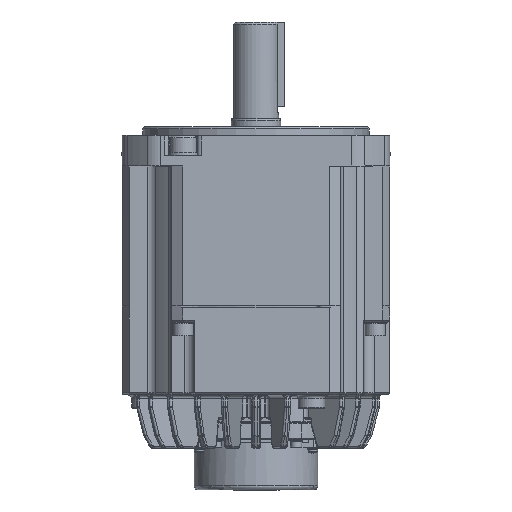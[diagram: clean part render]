
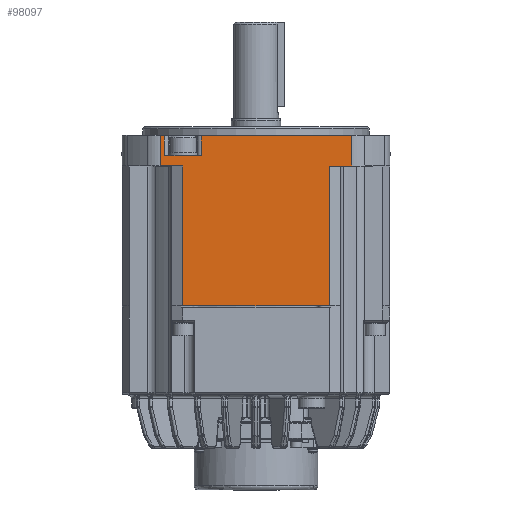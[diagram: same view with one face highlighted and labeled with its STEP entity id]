
A CAD part, front view. The second image highlights one B-rep face of the part: STEP entity #98097.
In plain terms, the highlighted planar face has unit normal (0, -1, 0) as drawn and (0, 0, -1) by its records, which use the part's own axes.
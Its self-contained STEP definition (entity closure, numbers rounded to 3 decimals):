
#1024 = ORIENTED_EDGE ( 'NONE', *, *, #134627, .T. ) ;
#14689 = LINE ( 'NONE', #80965, #72899 ) ;
#14977 = CARTESIAN_POINT ( 'NONE',  ( 258.814, -220.201, -130. ) ) ;
#15325 = EDGE_CURVE ( 'NONE', #92375, #121670, #106745, .T. ) ;
#17433 = CARTESIAN_POINT ( 'NONE',  ( 178.813, -234.901, -130. ) ) ;
#19549 = CARTESIAN_POINT ( 'NONE',  ( 178.813, -152.201, -130. ) ) ;
#19627 = DIRECTION ( 'NONE',  ( 0., 0., -1. ) ) ;
#20315 = LINE ( 'NONE', #36916, #82496 ) ;
#20347 = LINE ( 'NONE', #37902, #86418 ) ;
#20437 = VECTOR ( 'NONE', #93904, 1000. ) ;
#21523 = EDGE_CURVE ( 'NONE', #134678, #32033, #70974, .T. ) ;
#21641 = EDGE_LOOP ( 'NONE', ( #29551, #125377, #41118, #69376, #61504, #69988, #1024, #78203, #46529, #105710, #62151, #86056, #160636, #68199, #34202 ) ) ;
#24344 = LINE ( 'NONE', #19549, #20437 ) ;
#26069 = VERTEX_POINT ( 'NONE', #116793 ) ;
#26090 = LINE ( 'NONE', #139846, #59084 ) ;
#28658 = LINE ( 'NONE', #135819, #57790 ) ;
#28662 = CARTESIAN_POINT ( 'NONE',  ( 258.814, -152.201, -130. ) ) ;
#29551 = ORIENTED_EDGE ( 'NONE', *, *, #43860, .T. ) ;
#30313 = CARTESIAN_POINT ( 'NONE',  ( 189.602, -225.201, -130. ) ) ;
#32033 = VERTEX_POINT ( 'NONE', #37380 ) ;
#32071 = EDGE_CURVE ( 'NONE', #106202, #89836, #20347, .T. ) ;
#34202 = ORIENTED_EDGE ( 'NONE', *, *, #59740, .T. ) ;
#35754 = EDGE_CURVE ( 'NONE', #89836, #52300, #107121, .T. ) ;
#36916 = CARTESIAN_POINT ( 'NONE',  ( 258.814, -225.201, -130. ) ) ;
#37380 = CARTESIAN_POINT ( 'NONE',  ( 176.848, -220.201, -130. ) ) ;
#37902 = CARTESIAN_POINT ( 'NONE',  ( 258.814, -152.201, -130. ) ) ;
#38293 = VERTEX_POINT ( 'NONE', #160955 ) ;
#38611 = VERTEX_POINT ( 'NONE', #100628 ) ;
#40646 = CARTESIAN_POINT ( 'NONE',  ( 258.814, -152.201, -130. ) ) ;
#40690 = CARTESIAN_POINT ( 'NONE',  ( 187.813, -220.201, -130. ) ) ;
#41118 = ORIENTED_EDGE ( 'NONE', *, *, #21523, .T. ) ;
#41162 = DIRECTION ( 'NONE',  ( 1., 0., 0. ) ) ;
#42194 = EDGE_CURVE ( 'NONE', #93719, #49113, #14689, .T. ) ;
#43860 = EDGE_CURVE ( 'NONE', #38611, #79140, #24344, .T. ) ;
#44570 = DIRECTION ( 'NONE',  ( -1., 0., 0. ) ) ;
#46529 = ORIENTED_EDGE ( 'NONE', *, *, #35754, .T. ) ;
#47323 = VECTOR ( 'NONE', #41162, 1000. ) ;
#49113 = VERTEX_POINT ( 'NONE', #85333 ) ;
#52300 = VERTEX_POINT ( 'NONE', #132951 ) ;
#52662 = CARTESIAN_POINT ( 'NONE',  ( 196.813, -225.201, -130. ) ) ;
#53589 = VECTOR ( 'NONE', #153277, 1000. ) ;
#54143 = CARTESIAN_POINT ( 'NONE',  ( 176.848, -234.901, -130. ) ) ;
#56502 = CARTESIAN_POINT ( 'NONE',  ( 258.814, -152.201, -130. ) ) ;
#57790 = VECTOR ( 'NONE', #85945, 1000. ) ;
#59084 = VECTOR ( 'NONE', #65492, 1000. ) ;
#59740 = EDGE_CURVE ( 'NONE', #149703, #38611, #20315, .T. ) ;
#61504 = ORIENTED_EDGE ( 'NONE', *, *, #42194, .T. ) ;
#62151 = ORIENTED_EDGE ( 'NONE', *, *, #82959, .T. ) ;
#62468 = LINE ( 'NONE', #134446, #128447 ) ;
#65492 = DIRECTION ( 'NONE',  ( 0., -1., 0. ) ) ;
#68199 = ORIENTED_EDGE ( 'NONE', *, *, #125047, .T. ) ;
#68475 = DIRECTION ( 'NONE',  ( 1., 0., 0. ) ) ;
#69014 = PLANE ( 'NONE',  #76050 ) ;
#69376 = ORIENTED_EDGE ( 'NONE', *, *, #140608, .T. ) ;
#69988 = ORIENTED_EDGE ( 'NONE', *, *, #126989, .T. ) ;
#70974 = LINE ( 'NONE', #75964, #100140 ) ;
#72899 = VECTOR ( 'NONE', #93433, 1000. ) ;
#73429 = DIRECTION ( 'NONE',  ( -1., 0., 0. ) ) ;
#75964 = CARTESIAN_POINT ( 'NONE',  ( 176.848, -152.201, -130. ) ) ;
#76050 = AXIS2_PLACEMENT_3D ( 'NONE', #56502, #19627, #106464 ) ;
#77652 = VECTOR ( 'NONE', #73429, 1000. ) ;
#78203 = ORIENTED_EDGE ( 'NONE', *, *, #32071, .T. ) ;
#79140 = VERTEX_POINT ( 'NONE', #17433 ) ;
#80965 = CARTESIAN_POINT ( 'NONE',  ( 187.813, -152.201, -130. ) ) ;
#82496 = VECTOR ( 'NONE', #111219, 1000. ) ;
#82959 = EDGE_CURVE ( 'NONE', #38293, #112677, #89051, .T. ) ;
#85333 = CARTESIAN_POINT ( 'NONE',  ( 187.813, -152.201, -130. ) ) ;
#85390 = VECTOR ( 'NONE', #68475, 1000. ) ;
#85945 = DIRECTION ( 'NONE',  ( -1., 0., 0. ) ) ;
#86056 = ORIENTED_EDGE ( 'NONE', *, *, #88253, .T. ) ;
#86418 = VECTOR ( 'NONE', #149646, 1000. ) ;
#88253 = EDGE_CURVE ( 'NONE', #112677, #92375, #119177, .T. ) ;
#89051 = LINE ( 'NONE', #131351, #121984 ) ;
#89312 = DIRECTION ( 'NONE',  ( 1., 0., 0. ) ) ;
#89836 = VERTEX_POINT ( 'NONE', #148826 ) ;
#91098 = FACE_OUTER_BOUND ( 'NONE', #21641, .T. ) ;
#92375 = VERTEX_POINT ( 'NONE', #52662 ) ;
#93433 = DIRECTION ( 'NONE',  ( 0., 1., 0. ) ) ;
#93719 = VERTEX_POINT ( 'NONE', #40690 ) ;
#93904 = DIRECTION ( 'NONE',  ( 0., -1., 0. ) ) ;
#98097 = ADVANCED_FACE ( 'NONE', ( #91098 ), #69014, .T. ) ;
#100140 = VECTOR ( 'NONE', #150239, 1000. ) ;
#100628 = CARTESIAN_POINT ( 'NONE',  ( 178.813, -225.201, -130. ) ) ;
#105710 = ORIENTED_EDGE ( 'NONE', *, *, #157001, .T. ) ;
#106202 = VERTEX_POINT ( 'NONE', #40646 ) ;
#106464 = DIRECTION ( 'NONE',  ( 0., 1., 0. ) ) ;
#106745 = LINE ( 'NONE', #160185, #77652 ) ;
#107121 = LINE ( 'NONE', #14977, #136200 ) ;
#111219 = DIRECTION ( 'NONE',  ( -1., 0., 0. ) ) ;
#112677 = VERTEX_POINT ( 'NONE', #150524 ) ;
#114418 = LINE ( 'NONE', #142812, #85390 ) ;
#116793 = CARTESIAN_POINT ( 'NONE',  ( 223.313, -152.201, -130. ) ) ;
#119177 = LINE ( 'NONE', #133857, #156114 ) ;
#119729 = DIRECTION ( 'NONE',  ( 0., 1., 0. ) ) ;
#120308 = CARTESIAN_POINT ( 'NONE',  ( 186.025, -225.201, -130. ) ) ;
#120335 = EDGE_CURVE ( 'NONE', #79140, #134678, #62468, .T. ) ;
#121670 = VERTEX_POINT ( 'NONE', #30313 ) ;
#121984 = VECTOR ( 'NONE', #44570, 1000. ) ;
#123001 = DIRECTION ( 'NONE',  ( -1., 0., 0. ) ) ;
#123467 = LINE ( 'NONE', #140813, #53589 ) ;
#125047 = EDGE_CURVE ( 'NONE', #121670, #149703, #28658, .T. ) ;
#125377 = ORIENTED_EDGE ( 'NONE', *, *, #120335, .T. ) ;
#126989 = EDGE_CURVE ( 'NONE', #49113, #26069, #123467, .T. ) ;
#128447 = VECTOR ( 'NONE', #123001, 1000. ) ;
#131351 = CARTESIAN_POINT ( 'NONE',  ( 258.814, -234.901, -130. ) ) ;
#132951 = CARTESIAN_POINT ( 'NONE',  ( 269.778, -220.201, -130. ) ) ;
#133857 = CARTESIAN_POINT ( 'NONE',  ( 196.813, -152.201, -130. ) ) ;
#134446 = CARTESIAN_POINT ( 'NONE',  ( 258.814, -234.901, -130. ) ) ;
#134627 = EDGE_CURVE ( 'NONE', #26069, #106202, #134655, .T. ) ;
#134655 = LINE ( 'NONE', #28662, #47323 ) ;
#134678 = VERTEX_POINT ( 'NONE', #54143 ) ;
#135819 = CARTESIAN_POINT ( 'NONE',  ( 258.814, -225.201, -130. ) ) ;
#136200 = VECTOR ( 'NONE', #89312, 1000. ) ;
#139846 = CARTESIAN_POINT ( 'NONE',  ( 269.778, -152.201, -130. ) ) ;
#140608 = EDGE_CURVE ( 'NONE', #32033, #93719, #114418, .T. ) ;
#140813 = CARTESIAN_POINT ( 'NONE',  ( 258.814, -152.201, -130. ) ) ;
#142812 = CARTESIAN_POINT ( 'NONE',  ( 258.814, -220.201, -130. ) ) ;
#148826 = CARTESIAN_POINT ( 'NONE',  ( 258.814, -220.201, -130. ) ) ;
#149646 = DIRECTION ( 'NONE',  ( 0., -1., 0. ) ) ;
#149703 = VERTEX_POINT ( 'NONE', #120308 ) ;
#150239 = DIRECTION ( 'NONE',  ( 0., 1., 0. ) ) ;
#150524 = CARTESIAN_POINT ( 'NONE',  ( 196.813, -234.901, -130. ) ) ;
#153277 = DIRECTION ( 'NONE',  ( 1., 0., 0. ) ) ;
#156114 = VECTOR ( 'NONE', #119729, 1000. ) ;
#157001 = EDGE_CURVE ( 'NONE', #52300, #38293, #26090, .T. ) ;
#160185 = CARTESIAN_POINT ( 'NONE',  ( 258.814, -225.201, -130. ) ) ;
#160636 = ORIENTED_EDGE ( 'NONE', *, *, #15325, .T. ) ;
#160955 = CARTESIAN_POINT ( 'NONE',  ( 269.778, -234.901, -130. ) ) ;
